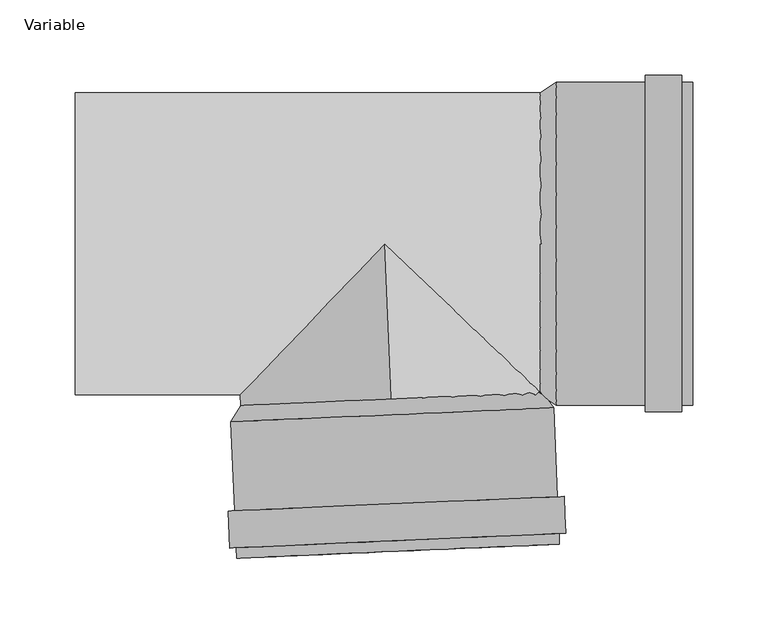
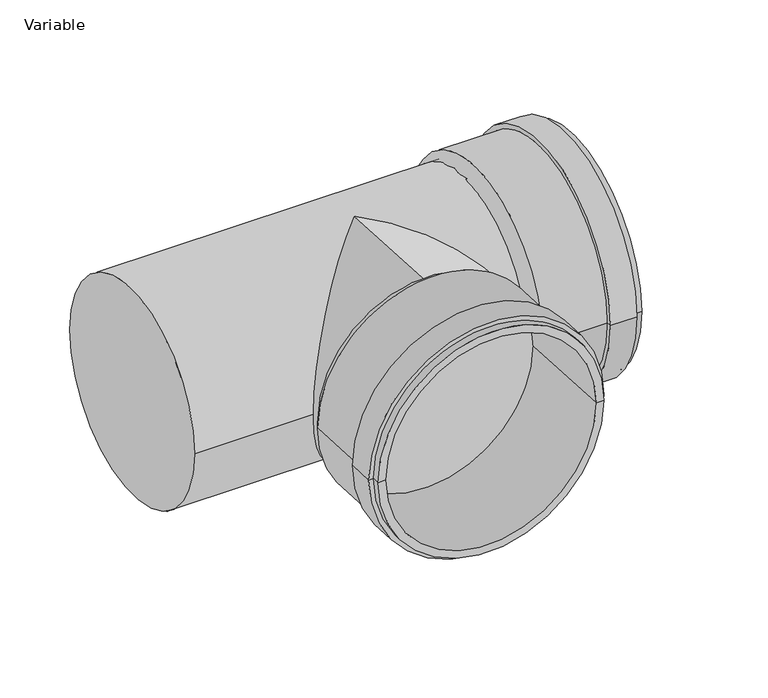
"""IFC4 building model written with IfcOpenShell, lengths in millimetres: pipe fitting geometry, AliaxisFR_Friaphon_Branch_FR : Variable."""

from ifc_helpers import new_model, si_unit, frame, origin, place, context, project, spatial, polyline, circle_curve, ellipse_curve, source, transform, mapped, element, save
from ifc_brep_helpers import plane_surface, cylinder_surface, revolved_surface, advanced_brep


def variable_dbcce6e6(model_context):
    return source(origin(), model_context, "Body", "AdvancedBrep", [
        advanced_brep(
        [(-97.9998047, -208.4731117, 0.0), (115.7965147, -199.1385628, 0.0), (108.8031772, -199.4438985, 0.0), (-91.0064671, -208.1677759, 0.0), (-103.8695324, -177.1993799, 0.0), (118.918221, -167.4722565, 0.0), (119.986896, -191.948938, 0.0), (-102.8008574, -201.6760613, 0.0), (-99.3738154, -177.0030927, 0.0), (114.422504, -167.6685438, 0.0), (-101.9473592, -118.0592476, 0.0), (111.8489602, -108.7246987, 0.0), (104.3976191, -98.5400281, 0.0), (-95.4120253, -107.2639056, 0.0), (-98.3051404, -201.4797741, 0.0), (115.491179, -192.1452252, 0.0)],
        [
            (0, 1, circle_curve(frame((8.898355, -203.8058372, 0.0), z_axis=(0.04361938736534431, -0.9990482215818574, 0.0), x_axis=(0.9990482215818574, 0.04361938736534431, 0.0)), 107.0)),
            (1, 2),
            (2, 3, circle_curve(frame((8.898355, -203.8058372, 0.0), z_axis=(-0.04361938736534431, 0.9990482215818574, 0.0), x_axis=(0.9990482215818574, 0.04361938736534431, 0.0)), 100.0)),
            (3, 0),
            (1, 0, circle_curve(frame((8.898355, -203.8058372, 0.0), z_axis=(0.04361938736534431, -0.9990482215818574, 0.0), x_axis=(0.9990482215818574, 0.04361938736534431, 0.0)), 107.0)),
            (3, 2, circle_curve(frame((8.898355, -203.8058372, 0.0), z_axis=(-0.04361938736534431, 0.9990482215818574, 0.0), x_axis=(0.9990482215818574, 0.04361938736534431, 0.0)), 100.0)),
            (4, 5, circle_curve(frame((7.5243443, -172.3358182, 0.0), z_axis=(0.04361938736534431, -0.9990482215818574, 0.0), x_axis=(0.9990482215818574, 0.04361938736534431, 0.0)), 111.5)),
            (5, 6),
            (6, 7, circle_curve(frame((8.5930193, -196.8124997, 0.0), z_axis=(-0.04361938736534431, 0.9990482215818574, 0.0), x_axis=(0.9990482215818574, 0.04361938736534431, 0.0)), 111.5)),
            (7, 4),
            (5, 4, circle_curve(frame((7.5243443, -172.3358182, 0.0), z_axis=(0.04361938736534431, -0.9990482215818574, 0.0), x_axis=(0.9990482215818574, 0.04361938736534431, 0.0)), 111.5)),
            (7, 6, circle_curve(frame((8.5930193, -196.8124997, 0.0), z_axis=(-0.04361938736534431, 0.9990482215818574, 0.0), x_axis=(0.9990482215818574, 0.04361938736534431, 0.0)), 111.5)),
            (8, 9, circle_curve(frame((7.5243443, -172.3358182, 0.0), z_axis=(0.04361938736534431, -0.9990482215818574, 0.0), x_axis=(0.9990482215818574, 0.04361938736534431, 0.0)), 107.0)),
            (9, 5),
            (4, 8),
            (9, 8, circle_curve(frame((7.5243443, -172.3358182, 0.0), z_axis=(0.04361938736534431, -0.9990482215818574, 0.0), x_axis=(0.9990482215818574, 0.04361938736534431, 0.0)), 107.0)),
            (10, 11, circle_curve(frame((4.9508005, -113.3919731, 0.0), z_axis=(0.04361938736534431, -0.9990482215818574, 0.0), x_axis=(0.9990482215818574, 0.04361938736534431, 0.0)), 107.0)),
            (11, 9),
            (8, 10),
            (11, 10, circle_curve(frame((4.9508005, -113.3919731, 0.0), z_axis=(0.04361938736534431, -0.9990482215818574, 0.0), x_axis=(0.9990482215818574, 0.04361938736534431, 0.0)), 107.0)),
            (2, 12),
            (12, 13, circle_curve(frame((4.4927969, -102.9019668, 0.0), z_axis=(-0.04361938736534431, 0.9990482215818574, 0.0), x_axis=(0.9990482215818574, 0.04361938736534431, 0.0)), 100.0)),
            (13, 3),
            (13, 12, circle_curve(frame((4.4927969, -102.9019668, 0.0), z_axis=(-0.04361938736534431, 0.9990482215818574, 0.0), x_axis=(0.9990482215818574, 0.04361938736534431, 0.0)), 100.0)),
            (12, 11),
            (10, 13),
            (14, 15, circle_curve(frame((8.5930193, -196.8124997, 0.0), z_axis=(0.04361938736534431, -0.9990482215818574, 0.0), x_axis=(0.9990482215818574, 0.04361938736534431, 0.0)), 107.0)),
            (15, 1),
            (0, 14),
            (15, 14, circle_curve(frame((8.5930193, -196.8124997, 0.0), z_axis=(0.04361938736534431, -0.9990482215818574, 0.0), x_axis=(0.9990482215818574, 0.04361938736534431, 0.0)), 107.0)),
            (6, 15),
            (14, 7),
        ],
        [
            plane_surface(frame((8.898355, -203.8058372, 0.0), z_axis=(0.04361938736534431, -0.9990482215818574, 0.0), x_axis=(0.9990482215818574, 0.04361938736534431, 0.0))),
            cylinder_surface(frame((4.4927969, -102.9019668, 0.0), z_axis=(-0.04361938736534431, 0.9990482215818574, 0.0), x_axis=(0.9990482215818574, 0.04361938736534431, 0.0)), 111.5),
            plane_surface(frame((7.5243443, -172.3358182, 0.0), z_axis=(-0.04361938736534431, 0.9990482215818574, 0.0), x_axis=(0.9990482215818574, 0.04361938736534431, 0.0))),
            cylinder_surface(frame((4.4927969, -102.9019668, 0.0), z_axis=(-0.04361938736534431, 0.9990482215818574, 0.0), x_axis=(0.9990482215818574, 0.04361938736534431, 0.0)), 107.0),
            revolved_surface(polyline([(104.39761905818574, -98.54002806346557, 0.0), (108.80317718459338, -199.44389850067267, 0.0)]), (4.4927969, -102.9019668, 0.0), (-0.04361938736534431, 0.9990482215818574, 0.0)),
            revolved_surface(polyline([(111.8489602, -108.7246987, 0.0), (104.3976191, -98.5400281, 0.0)]), (4.4927969, -102.9019668, 0.0), (-0.04361938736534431, 0.9990482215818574, 0.0)),
            plane_surface(frame((8.5930193, -196.8124997, 0.0), z_axis=(0.04361938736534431, -0.9990482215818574, 0.0), x_axis=(0.9990482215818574, 0.04361938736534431, 0.0))),
        ],
        [
            (0, [[1, 2, 3, 4]]),
            (0, [[5, -4, 6, -2]]),
            (1, [[7, 8, 9, 10]]),
            (1, [[11, -10, 12, -8]]),
            (2, [[13, 14, -7, 15]]),
            (2, [[16, -15, -11, -14]]),
            (3, [[17, 18, -13, 19]]),
            (3, [[20, -19, -16, -18]]),
            (4, [[-3, 21, 22, 23]]),
            (4, [[-6, -23, 24, -21]]),
            (5, [[-22, 25, -17, 26]]),
            (5, [[-24, -26, -20, -25]]),
            (3, [[27, 28, -1, 29]]),
            (3, [[30, -29, -5, -28]]),
            (6, [[-9, 31, -27, 32]]),
            (6, [[-12, -32, -30, -31]]),
        ],
    ),
        advanced_brep(
        [(204.0, -107.0, 0.0), (204.0, 107.0, 0.0), (204.0, 100.0, 0.0), (204.0, -100.0, 0.0), (172.5, -111.5, 0.0), (172.5, 111.5, 0.0), (197.0, 111.5, 0.0), (197.0, -111.5, 0.0), (172.5, -107.0, 0.0), (172.5, 107.0, 0.0), (113.5, -107.0, 0.0), (113.5, 107.0, 0.0), (103.0, 100.0, 0.0), (103.0, -100.0, 0.0), (197.0, -107.0, 0.0), (197.0, 107.0, 0.0)],
        [
            (0, 1, circle_curve(frame((204.0, 0.0, 0.0), z_axis=(1.0, 0.0, 0.0), x_axis=(0.0, 1.0, 0.0)), 107.0)),
            (1, 2),
            (2, 3, circle_curve(frame((204.0, 0.0, 0.0), z_axis=(-1.0, 0.0, 0.0), x_axis=(0.0, 1.0, 0.0)), 100.0)),
            (3, 0),
            (1, 0, circle_curve(frame((204.0, 0.0, 0.0), z_axis=(1.0, 0.0, 0.0), x_axis=(0.0, 1.0, 0.0)), 107.0)),
            (3, 2, circle_curve(frame((204.0, 0.0, 0.0), z_axis=(-1.0, 0.0, 0.0), x_axis=(0.0, 1.0, 0.0)), 100.0)),
            (4, 5, circle_curve(frame((172.5, 0.0, 0.0), z_axis=(1.0, 0.0, 0.0), x_axis=(0.0, 1.0, 0.0)), 111.5)),
            (5, 6),
            (6, 7, circle_curve(frame((197.0, 0.0, 0.0), z_axis=(-1.0, 0.0, 0.0), x_axis=(0.0, 1.0, 0.0)), 111.5)),
            (7, 4),
            (5, 4, circle_curve(frame((172.5, 0.0, 0.0), z_axis=(1.0, 0.0, 0.0), x_axis=(0.0, 1.0, 0.0)), 111.5)),
            (7, 6, circle_curve(frame((197.0, 0.0, 0.0), z_axis=(-1.0, 0.0, 0.0), x_axis=(0.0, 1.0, 0.0)), 111.5)),
            (8, 9, circle_curve(frame((172.5, 0.0, 0.0), z_axis=(1.0, 0.0, 0.0), x_axis=(0.0, 1.0, 0.0)), 107.0)),
            (9, 5),
            (4, 8),
            (9, 8, circle_curve(frame((172.5, 0.0, 0.0), z_axis=(1.0, 0.0, 0.0), x_axis=(0.0, 1.0, 0.0)), 107.0)),
            (10, 11, circle_curve(frame((113.5, 0.0, 0.0), z_axis=(1.0, 0.0, 0.0), x_axis=(0.0, 1.0, 0.0)), 107.0)),
            (11, 9),
            (8, 10),
            (11, 10, circle_curve(frame((113.5, 0.0, 0.0), z_axis=(1.0, 0.0, 0.0), x_axis=(0.0, 1.0, 0.0)), 107.0)),
            (2, 12),
            (12, 13, circle_curve(frame((103.0, 0.0, 0.0), z_axis=(-1.0, 0.0, 0.0), x_axis=(0.0, 1.0, 0.0)), 100.0)),
            (13, 3),
            (13, 12, circle_curve(frame((103.0, 0.0, 0.0), z_axis=(-1.0, 0.0, 0.0), x_axis=(0.0, 1.0, 0.0)), 100.0)),
            (12, 11),
            (10, 13),
            (14, 15, circle_curve(frame((197.0, 0.0, 0.0), z_axis=(1.0, 0.0, 0.0), x_axis=(0.0, 1.0, 0.0)), 107.0)),
            (15, 1),
            (0, 14),
            (15, 14, circle_curve(frame((197.0, 0.0, 0.0), z_axis=(1.0, 0.0, 0.0), x_axis=(0.0, 1.0, 0.0)), 107.0)),
            (6, 15),
            (14, 7),
        ],
        [
            plane_surface(frame((204.0, 0.0, 0.0), z_axis=(1.0, 0.0, 0.0), x_axis=(0.0, 1.0, 0.0))),
            cylinder_surface(frame((103.0, 0.0, 0.0), z_axis=(-1.0, 0.0, 0.0), x_axis=(0.0, 1.0, 0.0)), 111.5),
            plane_surface(frame((172.5, 0.0, 0.0), z_axis=(-1.0, 0.0, 0.0), x_axis=(0.0, 1.0, 0.0))),
            cylinder_surface(frame((103.0, 0.0, 0.0), z_axis=(-1.0, 0.0, 0.0), x_axis=(0.0, 1.0, 0.0)), 107.0),
            revolved_surface(polyline([(103.0, 100.0, 0.0), (204.0, 100.0, 0.0)]), (103.0, 0.0, 0.0), (-1.0, 0.0, 0.0)),
            revolved_surface(polyline([(113.5, 107.0, 0.0), (103.0, 100.0, 0.0)]), (103.0, 0.0, 0.0), (-1.0, 0.0, 0.0)),
            plane_surface(frame((197.0, 0.0, 0.0), z_axis=(1.0, 0.0, 0.0), x_axis=(0.0, 1.0, 0.0))),
        ],
        [
            (0, [[1, 2, 3, 4]]),
            (0, [[5, -4, 6, -2]]),
            (1, [[7, 8, 9, 10]]),
            (1, [[11, -10, 12, -8]]),
            (2, [[13, 14, -7, 15]]),
            (2, [[16, -15, -11, -14]]),
            (3, [[17, 18, -13, 19]]),
            (3, [[20, -19, -16, -18]]),
            (4, [[-3, 21, 22, 23]]),
            (4, [[-6, -23, 24, -21]]),
            (5, [[-22, 25, -17, 26]]),
            (5, [[-24, -26, -20, -25]]),
            (3, [[27, 28, -1, 29]]),
            (3, [[30, -29, -5, -28]]),
            (6, [[-9, 31, -27, 32]]),
            (6, [[-12, -32, -30, -31]]),
        ],
    ),
        advanced_brep(
        [(110.0, -100.0, 0.0), (110.0, 100.0, 0.0), (-205.0, -100.0, 0.0), (-205.0, 100.0, 0.0), (104.4613628, -100.0, 0.0), (0.0, 0.0, -100.0), (-95.7291742, -100.0, 0.0), (0.0, 0.0, 100.0), (4.7981326, -109.8953044, -100.0), (4.7981326, -109.8953044, 100.0)],
        [
            (0, 1, circle_curve(frame((110.0, 0.0, 0.0), z_axis=(1.0, 0.0, 0.0), x_axis=(0.0, 1.0, 0.0)), 100.0)),
            (1, 0, circle_curve(frame((110.0, 0.0, 0.0), z_axis=(1.0, 0.0, 0.0), x_axis=(0.0, 1.0, 0.0)), 100.0)),
            (2, 3, circle_curve(frame((-205.0, 0.0, 0.0), z_axis=(-1.0, 0.0, 0.0), x_axis=(0.0, 1.0, 0.0)), 100.0)),
            (3, 2, circle_curve(frame((-205.0, 0.0, 0.0), z_axis=(-1.0, 0.0, 0.0), x_axis=(0.0, 1.0, 0.0)), 100.0)),
            (0, 4),
            (4, 5, ellipse_curve(frame((0.0, 0.0, 0.0), z_axis=(0.6915130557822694, 0.7223639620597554, 0.0), x_axis=(0.7223639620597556, -0.6915130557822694, 0.0)), 144.6104295, 100.0)),
            (5, 6, ellipse_curve(frame((0.0, 0.0, 0.0), z_axis=(-0.7223639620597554, 0.6915130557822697, 0.0), x_axis=(0.6915130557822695, 0.7223639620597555, 0.0)), 138.43437, 100.0)),
            (6, 2),
            (3, 1),
            (6, 7, ellipse_curve(frame((0.0, 0.0, 0.0), z_axis=(-0.7223639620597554, 0.6915130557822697, 0.0), x_axis=(0.6915130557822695, 0.7223639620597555, 0.0)), 138.43437, 100.0)),
            (7, 4, ellipse_curve(frame((0.0, 0.0, 0.0), z_axis=(0.6915130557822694, 0.7223639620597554, 0.0), x_axis=(0.7223639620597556, -0.6915130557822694, 0.0)), 144.6104295, 100.0)),
            (8, 9, circle_curve(frame((4.7981326, -109.8953044, 0.0), z_axis=(0.04361938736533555, -0.9990482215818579, 0.0), x_axis=(0.0, 0.0, 1.0)), 100.0)),
            (9, 8, circle_curve(frame((4.7981326, -109.8953044, 0.0), z_axis=(0.04361938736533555, -0.9990482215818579, 0.0), x_axis=(0.0, 0.0, 1.0)), 100.0)),
            (8, 5),
            (7, 9),
        ],
        [
            plane_surface(frame((110.0, 100.0, 0.0), z_axis=(1.0, 0.0, 0.0), x_axis=(0.0, 0.0, 1.0))),
            plane_surface(frame((-205.0, 100.0, 0.0), z_axis=(-1.0, 0.0, 0.0), x_axis=(0.0, 0.0, -1.0))),
            cylinder_surface(frame((-205.0, 0.0, 0.0), z_axis=(1.0, 0.0, 0.0), x_axis=(0.0, 1.0, 0.0)), 100.0),
            plane_surface(frame((4.7981326, -109.8953044, 100.0), z_axis=(0.043619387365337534, -0.9990482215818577, 0.0), x_axis=(-0.9990482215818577, -0.043619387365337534, 0.0))),
            cylinder_surface(frame((4.7981326, -109.8953044, 0.0), z_axis=(-0.04361938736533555, 0.9990482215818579, 0.0), x_axis=(0.0, 0.0, 1.0)), 100.0),
        ],
        [
            (0, [[1, 2]]),
            (1, [[3, 4]]),
            (2, [[-1, 5, 6, 7, 8, -4, 9]]),
            (2, [[-2, -9, -3, -8, 10, 11, -5]]),
            (3, [[12, 13]]),
            (4, [[-12, 14, -6, -11, 15]]),
            (4, [[-13, -15, -10, -7, -14]]),
        ],
    ),
    ])


if __name__ == "__main__":
    model = new_model("IFC4")
    model_context = context("Model", 3, world=origin())
    ifc_project = project(units=[si_unit("LENGTHUNIT", "METRE", prefix="MILLI")], contexts=[model_context])
    site = spatial("IfcSite", under=ifc_project)
    building = spatial("IfcBuilding", under=site)
    placement = place(None, origin())
    variable_shape = variable_dbcce6e6(model_context)
    element("IfcPipeFitting", 1, ObjectType="AliaxisFR_Friaphon_Branch_FR : Variable", at=placement, inside=building, context=model_context, shape_type="MappedRepresentation", body=[
        mapped(variable_shape, transform((0.0, 0.0, 0.0), x_axis=(1.0, 0.0, 0.0), y_axis=(0.0, 1.0, 0.0), z_axis=(0.0, 0.0, 1.0))),
    ])
    save(model, "model.ifc")
